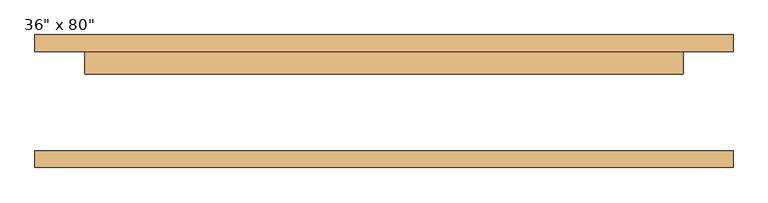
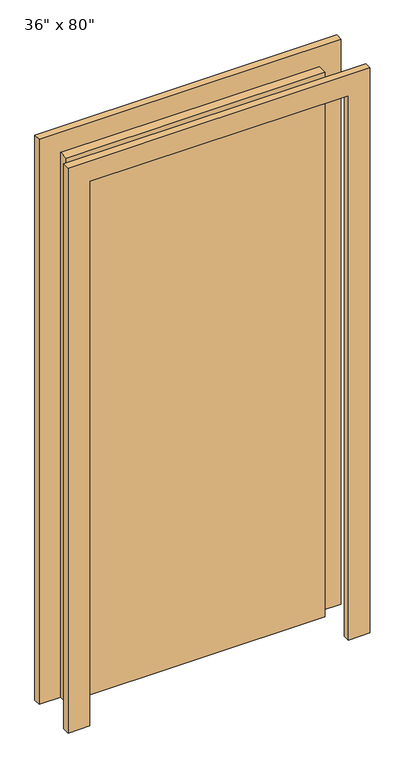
"""IFC4 building model written with IfcOpenShell, lengths in millimetres: door geometry."""

from ifc_helpers import new_model, si_unit, frame, origin, origin_with_axes, place, context, project, spatial, polyline, outline, extrude, source, transform, mapped, element, save


def door_e28f8d4c(model_context):
    return source(origin(), model_context, "Body", "SweptSolid", [
        extrude(outline(polyline([(2108.2, -533.4), (0.0, -533.4), (0.0, -457.2), (2032.0, -457.2), (2032.0, 457.2), (0.0, 457.2), (0.0, 533.4), (2108.2, 533.4), (2108.2, -533.4)])), frame((0.0, 76.2, 0.0), z_axis=(0.0, 1.0, 0.0), x_axis=(0.0, 0.0, 1.0)), (0.0, 0.0, 1.0), 25.4),
        extrude(outline(polyline([(2108.2, 533.4), (2108.2, -533.4), (0.0, -533.4), (0.0, -457.2), (2032.0, -457.2), (2032.0, 457.2), (0.0, 457.2), (0.0, 533.4), (2108.2, 533.4)])), frame((0.0, -101.6, 0.0), z_axis=(0.0, 1.0, 0.0), x_axis=(0.0, 0.0, 1.0)), (0.0, 0.0, 1.0), 25.4),
        extrude(outline(polyline([(457.2, 41.275), (-457.2, 41.275), (-457.2, 76.2), (457.2, 76.2), (457.2, 41.275)])), origin_with_axes(), (0.0, 0.0, 1.0), 2032.0),
    ])


if __name__ == "__main__":
    model = new_model("IFC4")
    model_context = context("Model", 3, world=origin())
    ifc_project = project(units=[si_unit("LENGTHUNIT", "METRE", prefix="MILLI")], contexts=[model_context])
    site = spatial("IfcSite", under=ifc_project)
    building = spatial("IfcBuilding", under=site)
    placement = place(None, origin())
    door_shape = door_e28f8d4c(model_context)
    element("IfcDoor", 1, ObjectType="VA7300 VA8 - Alki : 36\" x 80\"", at=placement, inside=building, context=model_context, shape_type="MappedRepresentation", body=[
        mapped(door_shape, transform((0.0, 0.0, 0.0), x_axis=(1.0, 0.0, 0.0), y_axis=(0.0, 1.0, 0.0), z_axis=(0.0, 0.0, 1.0))),
    ])
    save(model, "model.ifc")
